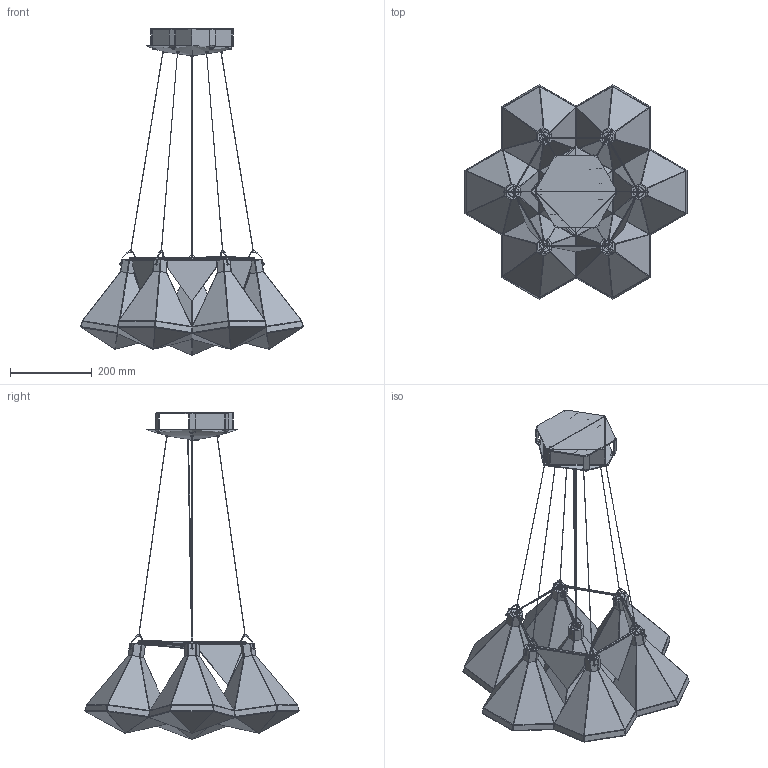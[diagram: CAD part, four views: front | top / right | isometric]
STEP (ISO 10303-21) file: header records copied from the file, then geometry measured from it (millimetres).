
FILE_DESCRIPTION(/* description */ (''),/* implementation_level */ '2;1');
FILE_NAME(/* name */ 'FACET7~1',/* time_stamp */ '2017-11-13T11:41:16+01:00',/* author */ (''),/* organization */ (''),/* preprocessor_version */ 'ST-DEVELOPER v15',/* originating_system */ '',/* authorisation */ '');
FILE_SCHEMA (('AUTOMOTIVE_DESIGN'));
Products named in the file (4): Document; Block 03; Block 02; Block 01
Assembly tree (3 placements, depth 2):
  Document
    Block 03
    Block 02
    Block 01
Bounding box: 545.25 x 524.49 x 799.88 mm (x, y, z)
Topology: 61 solids, 83 shells, 2506 faces, 6751 edges, 4301 vertices
Faces by surface type: bspline 1426, plane 1080
Entity records: 104389 total; most frequent: CARTESIAN_POINT 64014, ORIENTED_EDGE 13151, EDGE_CURVE 6647, VERTEX_POINT 4311, B_SPLINE_CURVE_WITH_KNOTS 3814, EDGE_LOOP 2770, ADVANCED_FACE 2506, FACE_OUTER_BOUND 2506
